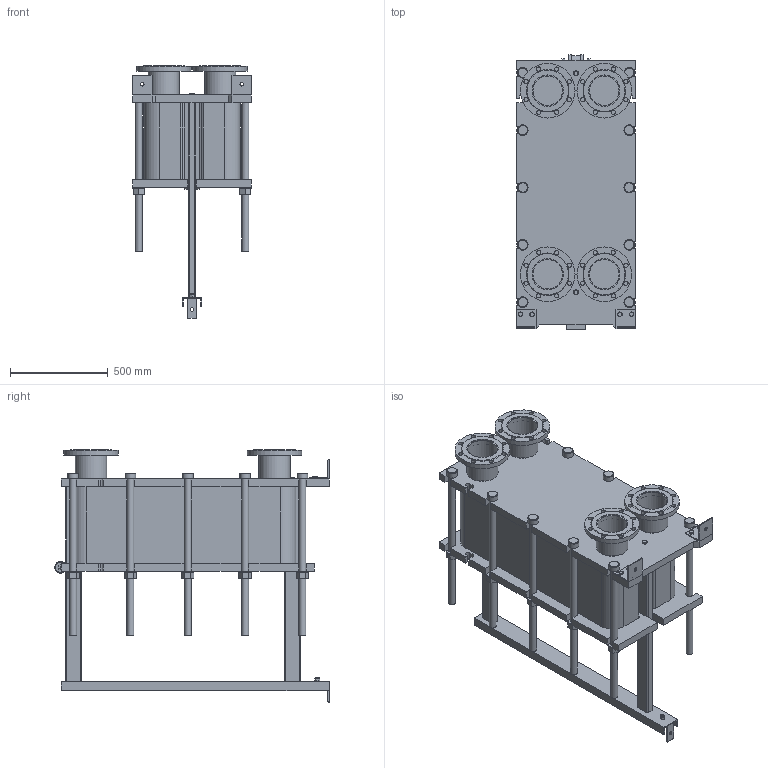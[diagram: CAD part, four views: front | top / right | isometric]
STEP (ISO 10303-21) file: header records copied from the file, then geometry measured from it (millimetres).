
FILE_DESCRIPTION(/* description */ (''),/* implementation_level */ '2;1');
FILE_NAME(/* name */ 'C:\Users\zhuro\Desktop\ENCO\TO\ЭН-041\ЭН-0,5-041-114-1.stp',/* time_stamp */ '2022-06-06T10:59:12+03:00',/* author */ ('zhuro'),/* organization */ (''),/* preprocessor_version */ 'ST-DEVELOPER v18.1',/* originating_system */ 'Autodesk Inventor 2022',/* authorisation */ '');
FILE_SCHEMA (('AUTOMOTIVE_DESIGN { 1 0 10303 214 3 1 1 }'));
Length unit declared in the file: millimetre
Products named in the file (1): ЭН-0,5-041-114-1
Bounding box: 610 x 1406.5 x 1295 mm (x, y, z)
Volume: 302663549.5 mm3; surface area: 9333199.6 mm2
Topology: 52 solids, 52 shells, 711 faces, 1696 edges, 1094 vertices
Faces by surface type: plane 487, cylinder 177, cone 41, torus 6
Full cylindrical faces by diameter (mm): 8 x4, 10 x2, 16 x8, 18 x3, 22 x32, 36 x24, 50 x1, 54 x10, 60 x12, 151 x4, 161 x8, 280 x4
Entity records: 22667 total; most frequent: CARTESIAN_POINT 5230, DIRECTION 3644, ORIENTED_EDGE 3392, EDGE_CURVE 1696, AXIS2_PLACEMENT_3D 1272, LINE 1100, VECTOR 1100, VERTEX_POINT 1094
